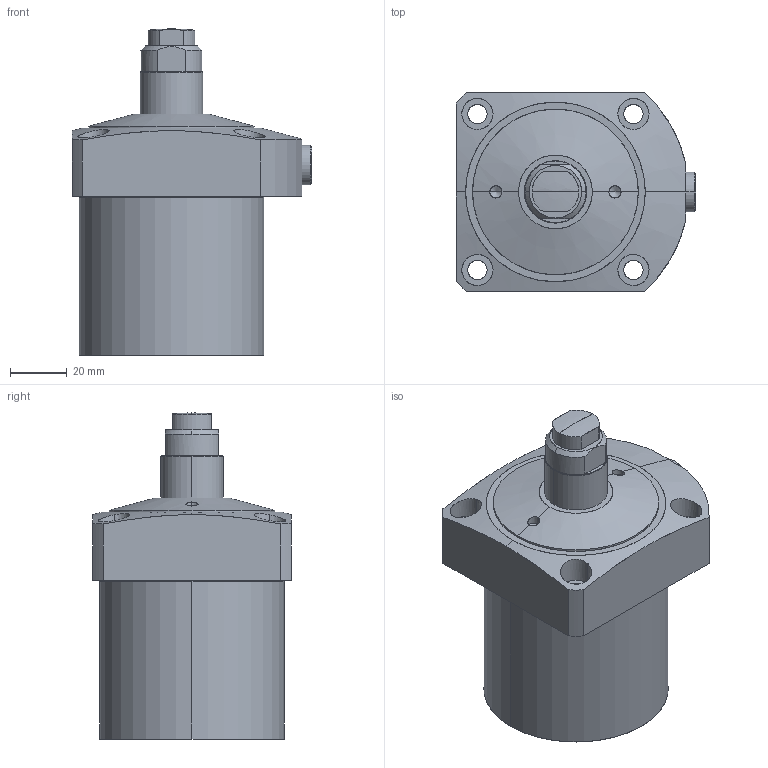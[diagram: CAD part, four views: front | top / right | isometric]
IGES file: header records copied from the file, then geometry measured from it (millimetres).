
Start section: SolidWorks IGES file using analytic representation for surfaces
Global section: file name: D:\abhilash\nijil\cylinder\Clasys1\lcE\cx\652\pt\0203-0401-E.IGS; native system: SolidWorks 2010; preprocessor: SolidWorks 2010; author: nidheesh; date: 130730.121635; units: millimetre
Bounding box: 84.5 x 70 x 115 mm (x, y, z)
Surface area: 32944.9 mm2 (no closed solid volume)
Topology: 0 solids, 0 shells, 85 faces, 1711 edges, 1706 vertices
Faces by surface type: revolution 56, bspline 29
